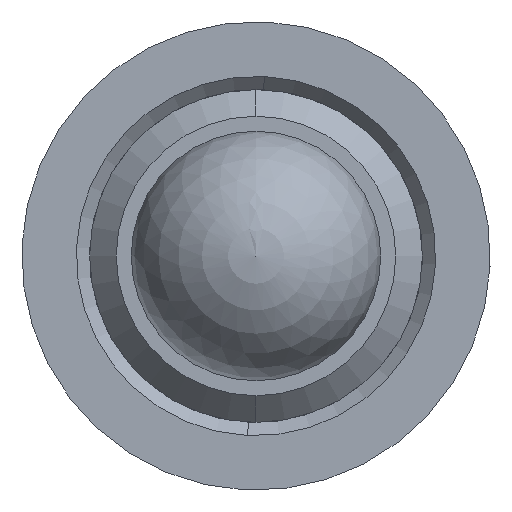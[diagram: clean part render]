
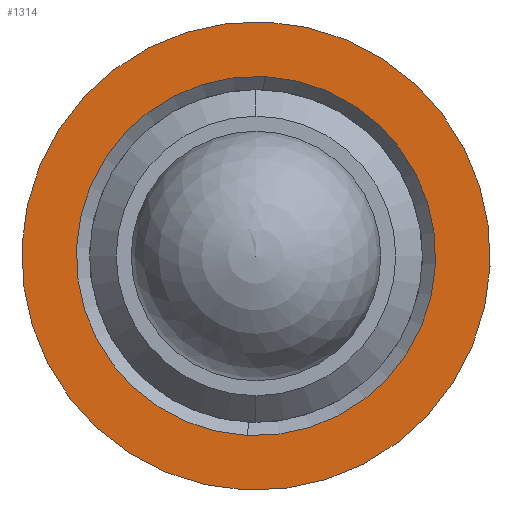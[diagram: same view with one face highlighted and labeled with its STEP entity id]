
A CAD part, left-side view. The second image highlights one B-rep face of the part: STEP entity #1314.
In plain terms, the highlighted planar face has unit normal (-1, 0, 0).
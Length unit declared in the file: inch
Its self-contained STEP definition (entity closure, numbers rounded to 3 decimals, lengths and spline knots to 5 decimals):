
#19 = CARTESIAN_POINT ( 'NONE',  ( 0.24961, 1.31546, 1.78672 ) ) ;
#23 = CIRCLE ( 'NONE', #598, 0.176 ) ;
#28 = CIRCLE ( 'NONE', #1404, 0.176 ) ;
#51 = DIRECTION ( 'NONE',  ( 1., 0., 0. ) ) ;
#100 = VERTEX_POINT ( 'NONE', #928 ) ;
#120 = CIRCLE ( 'NONE', #879, 0.135 ) ;
#169 = FACE_OUTER_BOUND ( 'NONE', #213, .T. ) ;
#213 = EDGE_LOOP ( 'NONE', ( #255, #813 ) ) ;
#255 = ORIENTED_EDGE ( 'NONE', *, *, #1344, .T. ) ;
#295 = DIRECTION ( 'NONE',  ( 1., 0., 0. ) ) ;
#299 = DIRECTION ( 'NONE',  ( 0., 0.046, -0.999 ) ) ;
#336 = VERTEX_POINT ( 'NONE', #613 ) ;
#402 = CARTESIAN_POINT ( 'NONE',  ( 0.24961, 1.3092, 1.92157 ) ) ;
#446 = EDGE_CURVE ( 'NONE', #662, #693, #120, .T. ) ;
#486 = DIRECTION ( 'NONE',  ( 0., -0.046, 0.999 ) ) ;
#506 = DIRECTION ( 'NONE',  ( -1., 0., 0. ) ) ;
#513 = CARTESIAN_POINT ( 'NONE',  ( 0.24961, 1.31546, 1.78672 ) ) ;
#598 = AXIS2_PLACEMENT_3D ( 'NONE', #513, #506, #486 ) ;
#613 = CARTESIAN_POINT ( 'NONE',  ( 0.24961, 1.32362, 1.61091 ) ) ;
#662 = VERTEX_POINT ( 'NONE', #402 ) ;
#693 = VERTEX_POINT ( 'NONE', #799 ) ;
#701 = EDGE_LOOP ( 'NONE', ( #1395, #960 ) ) ;
#799 = CARTESIAN_POINT ( 'NONE',  ( 0.24961, 1.32172, 1.65186 ) ) ;
#813 = ORIENTED_EDGE ( 'NONE', *, *, #884, .T. ) ;
#829 = DIRECTION ( 'NONE',  ( -1., 0., 0. ) ) ;
#879 = AXIS2_PLACEMENT_3D ( 'NONE', #1460, #51, #1024 ) ;
#884 = EDGE_CURVE ( 'NONE', #336, #100, #23, .T. ) ;
#892 = DIRECTION ( 'NONE',  ( 0., -0.046, 0.999 ) ) ;
#928 = CARTESIAN_POINT ( 'NONE',  ( 0.24961, 1.3073, 1.96253 ) ) ;
#960 = ORIENTED_EDGE ( 'NONE', *, *, #1191, .T. ) ;
#1024 = DIRECTION ( 'NONE',  ( 0., 0.046, -0.999 ) ) ;
#1038 = AXIS2_PLACEMENT_3D ( 'NONE', #19, #295, #299 ) ;
#1191 = EDGE_CURVE ( 'NONE', #693, #662, #1257, .T. ) ;
#1227 = DIRECTION ( 'NONE',  ( 0., 0.046, -0.999 ) ) ;
#1257 = CIRCLE ( 'NONE', #1038, 0.135 ) ;
#1273 = CARTESIAN_POINT ( 'NONE',  ( 0.24961, 1.31546, 1.78672 ) ) ;
#1294 = CARTESIAN_POINT ( 'NONE',  ( 0.24961, 1.31546, 1.78672 ) ) ;
#1314 = ADVANCED_FACE ( 'NONE', ( #1412, #169 ), #1493, .F. ) ;
#1344 = EDGE_CURVE ( 'NONE', #100, #336, #28, .T. ) ;
#1395 = ORIENTED_EDGE ( 'NONE', *, *, #446, .T. ) ;
#1404 = AXIS2_PLACEMENT_3D ( 'NONE', #1273, #829, #892 ) ;
#1412 = FACE_BOUND ( 'NONE', #701, .T. ) ;
#1460 = CARTESIAN_POINT ( 'NONE',  ( 0.24961, 1.31546, 1.78672 ) ) ;
#1467 = AXIS2_PLACEMENT_3D ( 'NONE', #1294, #1488, #1227 ) ;
#1488 = DIRECTION ( 'NONE',  ( 1., 0., 0. ) ) ;
#1493 = PLANE ( 'NONE',  #1467 ) ;
